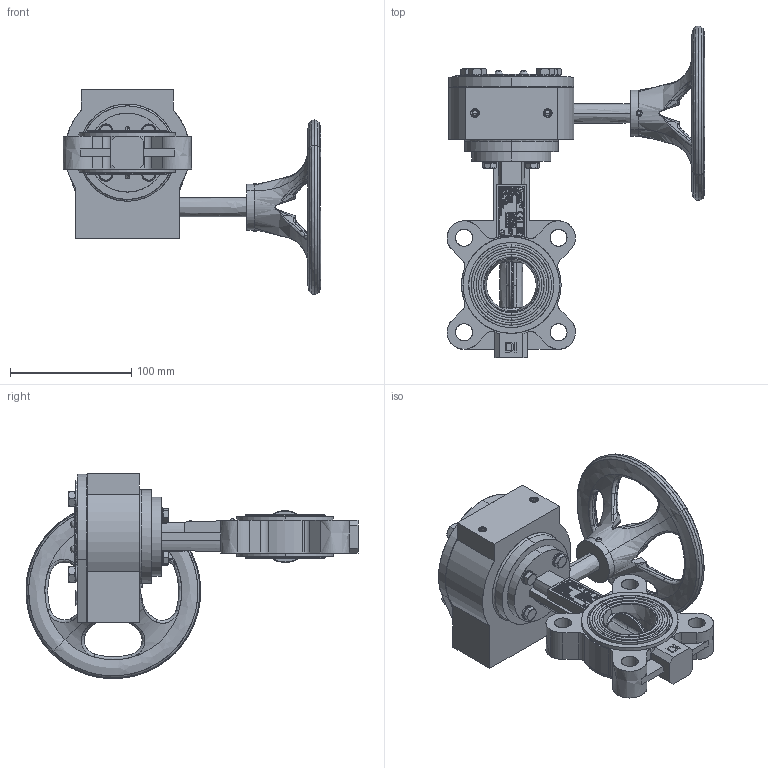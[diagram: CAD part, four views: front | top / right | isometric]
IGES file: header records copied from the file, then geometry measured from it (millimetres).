
Start section: SolidWorks IGES file using analytic representation for surfaces
Global section: file name: H:\BE FABRICATION\BE SERIE\VP\VP SERIE\F072 VPG\plan 3D\VPG-08\LUG\DN40\VPG464X-08XX0040.igs; native system: SolidWorks 2020; preprocessor: SolidWorks 2020; author: k.gigout; date: 220630.101428; units: millimetre
Bounding box: 212.34 x 273.38 x 168.88 mm (x, y, z)
Surface area: 157715.1 mm2 (no closed solid volume)
Topology: 0 solids, 0 shells, 967 faces, 21354 edges, 21342 vertices
Faces by surface type: bspline 724, revolution 243
